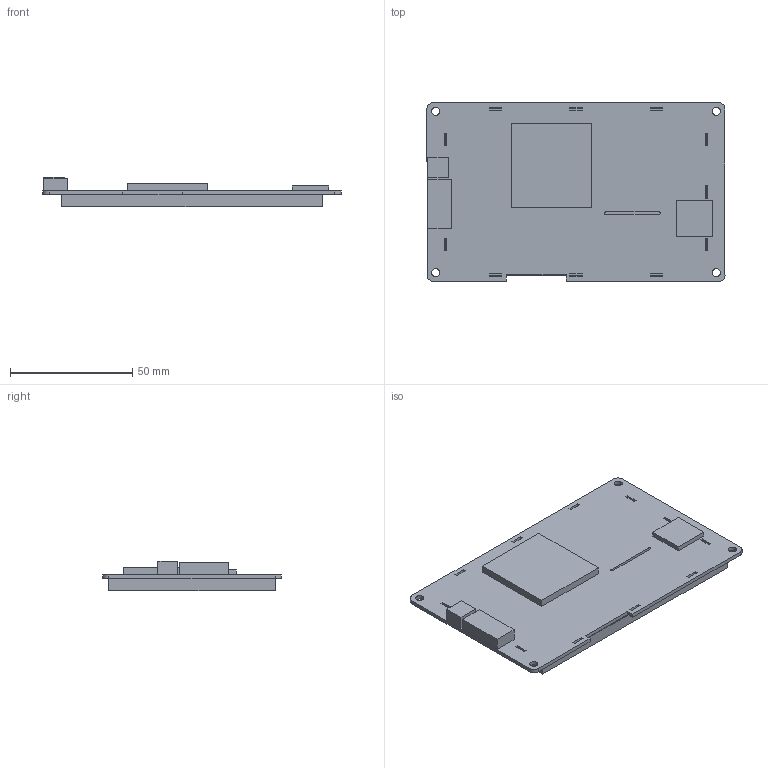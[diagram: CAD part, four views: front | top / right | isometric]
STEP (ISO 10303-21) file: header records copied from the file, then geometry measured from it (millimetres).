
FILE_DESCRIPTION((''),'2;1');
FILE_NAME('DMG48270S043-03W','2022-09-26T',('Administrator'),(''),'PRO/ENGINEER BY PARAMETRIC TECHNOLOGY CORPORATION, 2011310','PRO/ENGINEER BY PARAMETRIC TECHNOLOGY CORPORATION, 2011310','');
FILE_SCHEMA(('CONFIG_CONTROL_DESIGN','SHAPE_APPEARANCE_LAYERS_GROUPS'));
Products named in the file (1): DMG48270S043-03W
Bounding box: 121.93 x 73.15 x 12.2 mm (x, y, z)
Volume: 53241.4 mm3; surface area: 21438.6 mm2
Topology: 1 solids, 1 shells, 114 faces, 14571 edges, 25144 vertices
Faces by surface type: plane 100, cylinder 14
Entity records: 122343 total; most frequent: DIRECTION 18394, CARTESIAN_POINT 14896, PRESENTATION_STYLE_ASSIGNMENT 14579, STYLED_ITEM 14579, CURVE_STYLE 14575, TRIMMED_CURVE 14244, VECTOR 10978, LINE 10978
